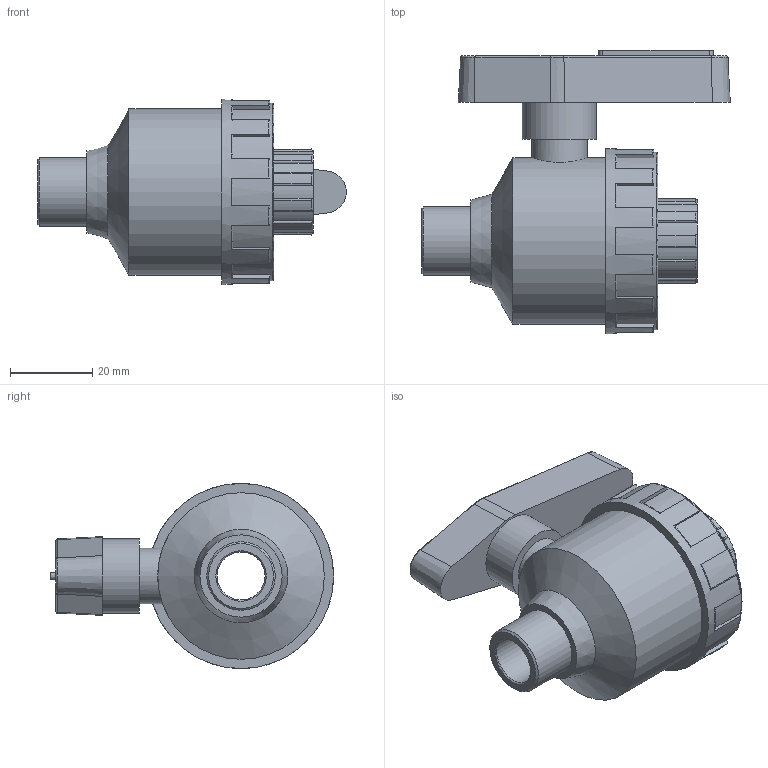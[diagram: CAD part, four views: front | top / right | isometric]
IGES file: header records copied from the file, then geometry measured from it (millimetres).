
Global section: file name: 11361003.ipt; native system: Autodesk Inventor 2015; preprocessor: unknown; author: KIM; date: 20171207.170455; units: millimetre
Bounding box: 75.07 x 68.85 x 45 mm (x, y, z)
Volume: 64742 mm3; surface area: 15903.1 mm2
Topology: 1 solids, 1 shells, 168 faces, 450 edges, 292 vertices
Faces by surface type: plane 65, cylinder 52, revolution 34, cone 17
Full cylindrical faces by diameter (mm): 13.5 x1, 16.662 x1, 18 x1, 40.5 x1, 43.2 x1, 45 x1
